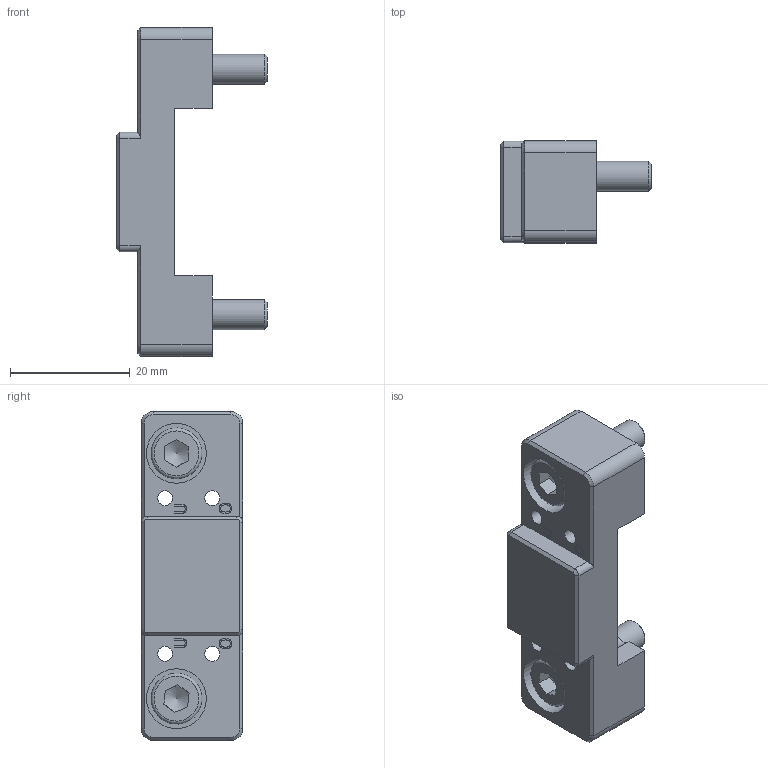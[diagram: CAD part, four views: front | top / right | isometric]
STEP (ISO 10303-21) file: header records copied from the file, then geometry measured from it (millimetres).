
FILE_DESCRIPTION(/* description */ (''),/* implementation_level */ '2;1');
FILE_NAME(/* name */ 'T:\CAD\Standard\SEK\SEK160\Kunde\Hologic\Homepage-Daten\3D-ZG-AP-SEK100-SHW160.stp',/* time_stamp */ '2022-11-15T13:04:41+01:00',/* author */ ('ysplieth'),/* organization */ (''),/* preprocessor_version */ 'ST-DEVELOPER v17',/* originating_system */ 'Autodesk Inventor 2018',/* authorisation */ '');
FILE_SCHEMA (('AUTOMOTIVE_DESIGN { 1 0 10303 214 3 1 1 }'));
Length unit declared in the file: millimetre
Products named in the file (1): Bauteil1
Bounding box: 25.2 x 17 x 55 mm (x, y, z)
Volume: 9538.1 mm3; surface area: 5272.1 mm2
Topology: 1 solids, 1 shells, 150 faces, 408 edges, 274 vertices
Faces by surface type: plane 66, bspline 44, cylinder 24, cone 12, torus 4
Full cylindrical faces by diameter (mm): 2.5 x4, 5 x2, 5.5 x2, 8.5 x2, 10 x2
Entity records: 5327 total; most frequent: CARTESIAN_POINT 1561, ORIENTED_EDGE 812, DIRECTION 616, EDGE_CURVE 406, VERTEX_POINT 274, LINE 206, VECTOR 206, AXIS2_PLACEMENT_3D 205
